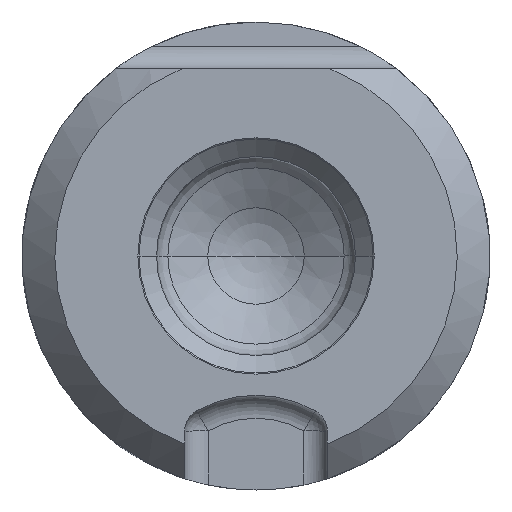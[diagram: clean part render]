
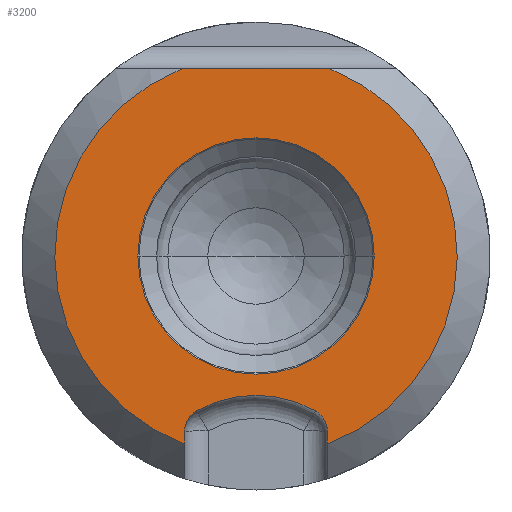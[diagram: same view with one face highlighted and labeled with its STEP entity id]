
A CAD part, left-side view. The second image highlights one B-rep face of the part: STEP entity #3200.
In plain terms, the highlighted planar face has unit normal (-1, 0, 0).
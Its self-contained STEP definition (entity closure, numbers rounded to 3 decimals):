
#785=DIRECTION('',(0.,1.,0.));
#786=VECTOR('',#785,3.156);
#787=CARTESIAN_POINT('',(-22.,3.422,4.));
#788=LINE('',#787,#786);
#789=CARTESIAN_POINT('',(-22.,5.,0.));
#790=DIRECTION('',(1.,0.,0.));
#791=DIRECTION('',(0.,-0.367,0.93));
#792=AXIS2_PLACEMENT_3D('',#789,#790,#791);
#794=DIRECTION('',(0.,0.,1.));
#795=VECTOR('',#794,0.275);
#796=CARTESIAN_POINT('',(-22.,3.475,-4.02));
#797=LINE('',#796,#795);
#798=CARTESIAN_POINT('',(-22.,3.975,-3.746));
#799=DIRECTION('',(-1.,0.,0.));
#800=DIRECTION('',(0.,-1.,0.));
#801=AXIS2_PLACEMENT_3D('',#798,#799,#800);
#803=CARTESIAN_POINT('',(-22.,5.,-5.551));
#804=DIRECTION('',(-1.,0.,0.));
#805=DIRECTION('',(0.,-0.494,0.87));
#806=AXIS2_PLACEMENT_3D('',#803,#804,#805);
#808=CARTESIAN_POINT('',(-22.,6.025,-3.746));
#809=DIRECTION('',(-1.,0.,0.));
#810=DIRECTION('',(0.,0.494,0.87));
#811=AXIS2_PLACEMENT_3D('',#808,#809,#810);
#813=CARTESIAN_POINT('',(-22.,5.,0.));
#814=DIRECTION('',(1.,0.,0.));
#815=DIRECTION('',(0.,0.355,-0.935));
#816=AXIS2_PLACEMENT_3D('',#813,#814,#815);
#818=CARTESIAN_POINT('',(-22.,5.,0.));
#819=DIRECTION('',(-1.,0.,0.));
#820=DIRECTION('',(0.,1.,0.));
#821=AXIS2_PLACEMENT_3D('',#818,#819,#820);
#823=CARTESIAN_POINT('',(-22.,5.,0.));
#824=DIRECTION('',(-1.,0.,0.));
#825=DIRECTION('',(0.,-1.,0.));
#826=AXIS2_PLACEMENT_3D('',#823,#824,#825);
#884=DIRECTION('',(0.,0.,1.));
#885=VECTOR('',#884,0.275);
#886=CARTESIAN_POINT('',(-22.,6.525,-4.02));
#887=LINE('',#886,#885);
#1704=CARTESIAN_POINT('',(-22.,3.422,4.));
#1705=CARTESIAN_POINT('',(-22.,6.578,4.));
#1706=VERTEX_POINT('',#1704);
#1707=VERTEX_POINT('',#1705);
#1708=CARTESIAN_POINT('',(-22.,3.475,-4.02));
#1709=VERTEX_POINT('',#1708);
#1710=CARTESIAN_POINT('',(-22.,3.475,-3.746));
#1711=VERTEX_POINT('',#1710);
#1712=CARTESIAN_POINT('',(-22.,3.728,-3.311));
#1713=VERTEX_POINT('',#1712);
#1714=CARTESIAN_POINT('',(-22.,6.272,-3.311));
#1715=VERTEX_POINT('',#1714);
#1716=CARTESIAN_POINT('',(-22.,6.525,-3.746));
#1717=VERTEX_POINT('',#1716);
#1718=CARTESIAN_POINT('',(-22.,6.525,-4.02));
#1719=VERTEX_POINT('',#1718);
#1720=CARTESIAN_POINT('',(-22.,7.525,0.));
#1721=CARTESIAN_POINT('',(-22.,2.475,0.));
#1722=VERTEX_POINT('',#1720);
#1723=VERTEX_POINT('',#1721);
#3172=CARTESIAN_POINT('',(-22.,10.25,-5.25));
#3173=DIRECTION('',(-1.,0.,0.));
#3174=DIRECTION('',(0.,-1.,0.));
#3175=AXIS2_PLACEMENT_3D('',#3172,#3173,#3174);
#3176=PLANE('',#3175);
#3177=ORIENTED_EDGE('',*,*,#3160,.F.);
#3179=ORIENTED_EDGE('',*,*,#3178,.T.);
#3181=ORIENTED_EDGE('',*,*,#3180,.T.);
#3183=ORIENTED_EDGE('',*,*,#3182,.T.);
#3185=ORIENTED_EDGE('',*,*,#3184,.T.);
#3187=ORIENTED_EDGE('',*,*,#3186,.T.);
#3189=ORIENTED_EDGE('',*,*,#3188,.F.);
#3191=ORIENTED_EDGE('',*,*,#3190,.T.);
#3192=EDGE_LOOP('',(#3177,#3179,#3181,#3183,#3185,#3187,#3189,#3191));
#3193=FACE_OUTER_BOUND('',#3192,.F.);
#3195=ORIENTED_EDGE('',*,*,#3194,.T.);
#3197=ORIENTED_EDGE('',*,*,#3196,.T.);
#3198=EDGE_LOOP('',(#3195,#3197));
#3199=FACE_BOUND('',#3198,.F.);
#3200=ADVANCED_FACE('',(#3193,#3199),#3176,.T.);
#793=CIRCLE('',#792,4.3);
#802=CIRCLE('',#801,0.5);
#807=CIRCLE('',#806,2.576);
#812=CIRCLE('',#811,0.5);
#817=CIRCLE('',#816,4.3);
#822=CIRCLE('',#821,2.525);
#827=CIRCLE('',#826,2.525);
#3160=EDGE_CURVE('',#1706,#1707,#788,.T.);
#3178=EDGE_CURVE('',#1706,#1709,#793,.T.);
#3180=EDGE_CURVE('',#1709,#1711,#797,.T.);
#3182=EDGE_CURVE('',#1711,#1713,#802,.T.);
#3184=EDGE_CURVE('',#1713,#1715,#807,.T.);
#3186=EDGE_CURVE('',#1715,#1717,#812,.T.);
#3188=EDGE_CURVE('',#1719,#1717,#887,.T.);
#3190=EDGE_CURVE('',#1719,#1707,#817,.T.);
#3194=EDGE_CURVE('',#1722,#1723,#822,.T.);
#3196=EDGE_CURVE('',#1723,#1722,#827,.T.);
